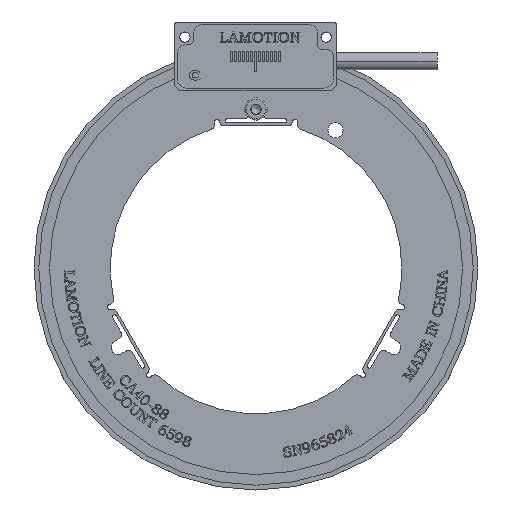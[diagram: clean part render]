
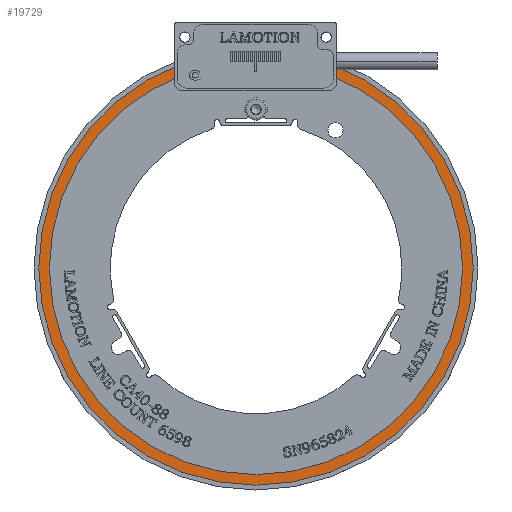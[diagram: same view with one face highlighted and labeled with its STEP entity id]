
A CAD part, top view. The second image highlights one B-rep face of the part: STEP entity #19729.
In plain terms, the highlighted planar face has unit normal (0, 0, 1).
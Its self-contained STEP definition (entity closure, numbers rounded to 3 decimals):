
#1624 = CARTESIAN_POINT ( 'NONE',  ( 0., 0., -0.001 ) ) ;
#1643 = DIRECTION ( 'NONE',  ( 1., 0., 0. ) ) ;
#2664 = AXIS2_PLACEMENT_3D ( 'NONE', #24242, #23894, #13247 ) ;
#3283 = AXIS2_PLACEMENT_3D ( 'NONE', #43440, #59393, #10798 ) ;
#4542 = EDGE_CURVE ( 'NONE', #42889, #6973, #55959, .T. ) ;
#5543 = ORIENTED_EDGE ( 'NONE', *, *, #65278, .F. ) ;
#5872 = ORIENTED_EDGE ( 'NONE', *, *, #56625, .F. ) ;
#6973 = VERTEX_POINT ( 'NONE', #11312 ) ;
#7142 = CARTESIAN_POINT ( 'NONE',  ( 0., 0., -0.001 ) ) ;
#10798 = DIRECTION ( 'NONE',  ( 1., 0., 0. ) ) ;
#11312 = CARTESIAN_POINT ( 'NONE',  ( 43.05, 0., -0.001 ) ) ;
#11818 = EDGE_CURVE ( 'NONE', #6973, #42889, #64481, .T. ) ;
#12427 = CIRCLE ( 'NONE', #52080, 40.95 ) ;
#13247 = DIRECTION ( 'NONE',  ( 1., 0., 0. ) ) ;
#13807 = LINE ( 'NONE', #24783, #43644 ) ;
#16624 = CIRCLE ( 'NONE', #22290, 40.95 ) ;
#16735 = CARTESIAN_POINT ( 'NONE',  ( 0.2, 38.95, -0.001 ) ) ;
#19729 = ADVANCED_FACE ( 'NONE', ( #56415, #35822 ), #41170, .T. ) ;
#20482 = CARTESIAN_POINT ( 'NONE',  ( 0.2, 40.95, -0.001 ) ) ;
#22290 = AXIS2_PLACEMENT_3D ( 'NONE', #7142, #56434, #24173 ) ;
#22395 = LINE ( 'NONE', #16735, #43360 ) ;
#22602 = VERTEX_POINT ( 'NONE', #68707 ) ;
#23830 = AXIS2_PLACEMENT_3D ( 'NONE', #50618, #28637, #1643 ) ;
#23894 = DIRECTION ( 'NONE',  ( 0., 0., 1. ) ) ;
#24017 = AXIS2_PLACEMENT_3D ( 'NONE', #40805, #29469, #46850 ) ;
#24173 = DIRECTION ( 'NONE',  ( 1., 0., 0. ) ) ;
#24242 = CARTESIAN_POINT ( 'NONE',  ( 0., 0., -0.001 ) ) ;
#24439 = DIRECTION ( 'NONE',  ( 1., 0., 0. ) ) ;
#24783 = CARTESIAN_POINT ( 'NONE',  ( -0.2, 38.95, -0.001 ) ) ;
#25686 = EDGE_LOOP ( 'NONE', ( #69245, #64133 ) ) ;
#26969 = EDGE_CURVE ( 'NONE', #68359, #63885, #16624, .T. ) ;
#28637 = DIRECTION ( 'NONE',  ( 0., 0., 1. ) ) ;
#29469 = DIRECTION ( 'NONE',  ( 0., 0., 1. ) ) ;
#33028 = VECTOR ( 'NONE', #61223, 1000. ) ;
#33057 = DIRECTION ( 'NONE',  ( 0., 1., 0. ) ) ;
#34275 = DIRECTION ( 'NONE',  ( 1., 0., 0. ) ) ;
#35314 = DIRECTION ( 'NONE',  ( 0., 0., 1. ) ) ;
#35822 = FACE_OUTER_BOUND ( 'NONE', #25686, .T. ) ;
#39583 = CARTESIAN_POINT ( 'NONE',  ( -0.2, 38.95, -0.001 ) ) ;
#40508 = EDGE_CURVE ( 'NONE', #58189, #44357, #13807, .T. ) ;
#40805 = CARTESIAN_POINT ( 'NONE',  ( 0., 0., -0.001 ) ) ;
#41170 = PLANE ( 'NONE',  #24017 ) ;
#42486 = CARTESIAN_POINT ( 'NONE',  ( -40.95, 0., -0.001 ) ) ;
#42889 = VERTEX_POINT ( 'NONE', #46161 ) ;
#43360 = VECTOR ( 'NONE', #33057, 1000. ) ;
#43440 = CARTESIAN_POINT ( 'NONE',  ( 0., 0., -0.001 ) ) ;
#43644 = VECTOR ( 'NONE', #24439, 1000. ) ;
#44357 = VERTEX_POINT ( 'NONE', #62557 ) ;
#46161 = CARTESIAN_POINT ( 'NONE',  ( -43.05, 0., -0.001 ) ) ;
#46687 = ORIENTED_EDGE ( 'NONE', *, *, #69784, .T. ) ;
#46743 = ORIENTED_EDGE ( 'NONE', *, *, #57779, .T. ) ;
#46850 = DIRECTION ( 'NONE',  ( 1., 0., 0. ) ) ;
#50388 = CARTESIAN_POINT ( 'NONE',  ( -0.2, 40.95, -0.001 ) ) ;
#50618 = CARTESIAN_POINT ( 'NONE',  ( 0., 0., -0.001 ) ) ;
#52080 = AXIS2_PLACEMENT_3D ( 'NONE', #1624, #35314, #34275 ) ;
#54404 = CIRCLE ( 'NONE', #23830, 40.95 ) ;
#54954 = CARTESIAN_POINT ( 'NONE',  ( -0.2, 38.95, -0.001 ) ) ;
#55959 = CIRCLE ( 'NONE', #2664, 43.05 ) ;
#56415 = FACE_BOUND ( 'NONE', #68529, .T. ) ;
#56434 = DIRECTION ( 'NONE',  ( 0., 0., 1. ) ) ;
#56625 = EDGE_CURVE ( 'NONE', #63885, #22602, #54404, .T. ) ;
#57779 = EDGE_CURVE ( 'NONE', #44357, #62100, #22395, .T. ) ;
#58189 = VERTEX_POINT ( 'NONE', #54954 ) ;
#59393 = DIRECTION ( 'NONE',  ( 0., 0., 1. ) ) ;
#61223 = DIRECTION ( 'NONE',  ( 0., -1., 0. ) ) ;
#62024 = ORIENTED_EDGE ( 'NONE', *, *, #40508, .T. ) ;
#62100 = VERTEX_POINT ( 'NONE', #20482 ) ;
#62557 = CARTESIAN_POINT ( 'NONE',  ( 0.2, 38.95, -0.001 ) ) ;
#63885 = VERTEX_POINT ( 'NONE', #42486 ) ;
#64133 = ORIENTED_EDGE ( 'NONE', *, *, #4542, .T. ) ;
#64481 = CIRCLE ( 'NONE', #3283, 43.05 ) ;
#65278 = EDGE_CURVE ( 'NONE', #22602, #62100, #12427, .T. ) ;
#66907 = LINE ( 'NONE', #39583, #33028 ) ;
#67329 = ORIENTED_EDGE ( 'NONE', *, *, #26969, .F. ) ;
#68359 = VERTEX_POINT ( 'NONE', #50388 ) ;
#68529 = EDGE_LOOP ( 'NONE', ( #67329, #46687, #62024, #46743, #5543, #5872 ) ) ;
#68707 = CARTESIAN_POINT ( 'NONE',  ( 40.95, 0., -0.001 ) ) ;
#69245 = ORIENTED_EDGE ( 'NONE', *, *, #11818, .T. ) ;
#69784 = EDGE_CURVE ( 'NONE', #68359, #58189, #66907, .T. ) ;
